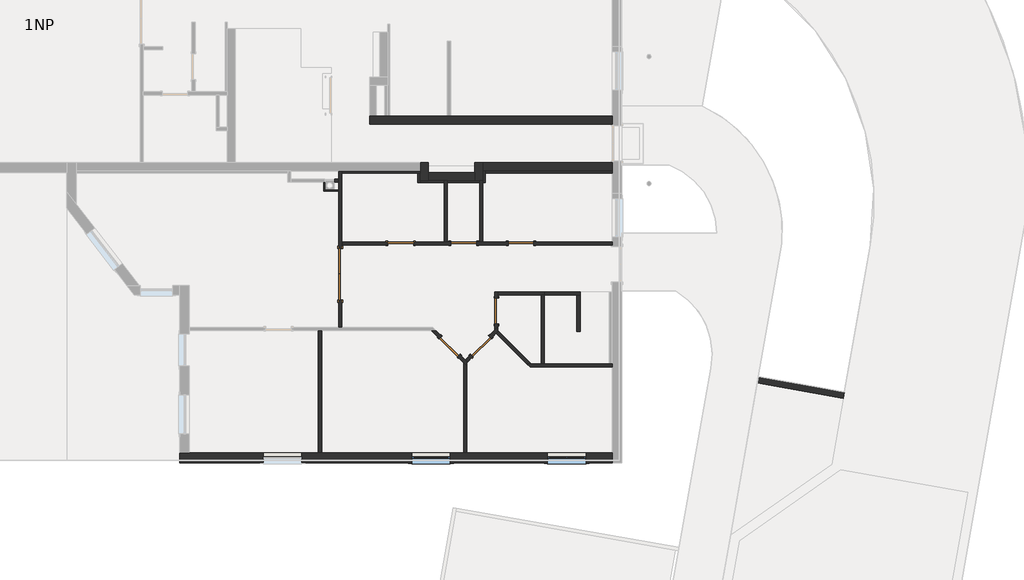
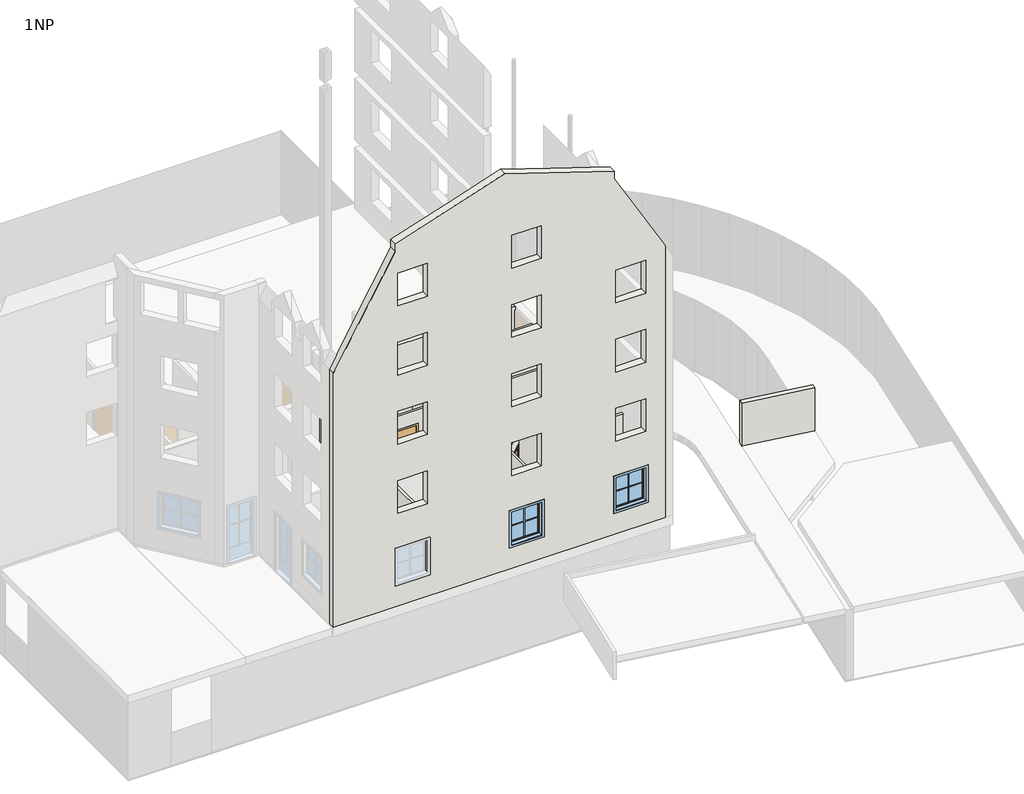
# One storey, part 2 of 7: 31 walls, 7 doors, 2 windows.
"""IFC4 building model written with IfcOpenShell, lengths in millimetres."""

import ifcopenshell
import ifcopenshell.guid

model = None  # the IFC model being written
_history = None  # IfcOwnerHistory: only IFC2X3 demands one
_inside = {}  # id of a spatial element -> (the spatial element, [elements in it])
_under = {}  # id of a project, library or spatial element -> (it, [spatial elements below it])
_declared = {}  # id of a project -> (the project, [libraries it declares])
_typed = {}  # id of a type object -> (the type object, [elements of that type])
_made_of = {}  # id of a material, layer set ... -> (it, [elements and type objects made of it])


def new_model(schema):
    """Start an empty IFC model of exactly this schema.

    Asked for "IFC4X3", IfcOpenShell would pick the latest addendum, in which some entities
    have other attributes; the version numbers below select the first issue.
    IFC2X3 requires an IfcOwnerHistory on every rooted entity: one is made here for all.
    """
    global model, _history
    if schema == "IFC4X3":
        model = ifcopenshell.file(schema_version=(4, 3, 0, 0))
    else:
        model = ifcopenshell.file(schema=schema)
    _inside.clear()
    _under.clear()
    _declared.clear()
    _typed.clear()
    _made_of.clear()
    _history = None
    if model.schema == "IFC2X3":
        org = make("IfcOrganization", Name="unknown")
        user = make(
            "IfcPersonAndOrganization",
            ThePerson=make("IfcPerson", FamilyName="unknown"),
            TheOrganization=org,
        )
        app = make(
            "IfcApplication",
            ApplicationDeveloper=org,
            Version="unknown",
            ApplicationFullName="unknown",
            ApplicationIdentifier="unknown",
        )
        _history = make(
            "IfcOwnerHistory",
            OwningUser=user,
            OwningApplication=app,
            ChangeAction="ADDED",
            CreationDate=0,
        )
    return model


def make(cls, **values):
    """One entity of the class cls with the attributes given. An attribute that is None is left unset."""
    return model.create_entity(
        cls, **{name: value for name, value in values.items() if value is not None}
    )


def rooted(cls, **values):
    """An entity with a GlobalId (a new one), such as an element, a storey or a relation."""
    return make(cls, GlobalId=ifcopenshell.guid.new(), OwnerHistory=_history, **values)


def si_unit(unit_type, name, prefix=None):
    """IfcSIUnit, for example si_unit("LENGTHUNIT", "METRE", prefix="MILLI")."""
    return make("IfcSIUnit", UnitType=unit_type, Prefix=prefix, Name=name)


def assignment(units):
    """IfcUnitAssignment: the units of a project."""
    return None if units is None else make("IfcUnitAssignment", Units=units)


def point(xyz):
    """IfcCartesianPoint."""
    return None if xyz is None else make("IfcCartesianPoint", Coordinates=xyz)


def direction(xyz):
    """IfcDirection."""
    return None if xyz is None else make("IfcDirection", DirectionRatios=xyz)


def frame(location, z_axis=None, x_axis=None):
    """IfcAxis2Placement3D, a coordinate frame: its origin and axes. An axis left out is left unset."""
    return make(
        "IfcAxis2Placement3D",
        Location=point(location),
        Axis=direction(z_axis),
        RefDirection=direction(x_axis),
    )


def origin():
    """The frame at (0, 0, 0) with its axes left unset."""
    return frame((0.0, 0.0, 0.0))


def origin_with_axes():
    """The frame at (0, 0, 0) with the z axis (0, 0, 1) and the x axis (1, 0, 0) written out."""
    return frame((0.0, 0.0, 0.0), z_axis=(0.0, 0.0, 1.0), x_axis=(1.0, 0.0, 0.0))


def place(relative_to, where):
    """IfcLocalPlacement: puts the frame where relative to a parent placement (None: the world)."""
    return make(
        "IfcLocalPlacement", PlacementRelTo=relative_to, RelativePlacement=where
    )


def context(
    kind, dimensions, precision=None, world=None, true_north=None, identifier=None
):
    """IfcGeometricRepresentationContext, for example the 3D "Model" context."""
    return make(
        "IfcGeometricRepresentationContext",
        ContextIdentifier=identifier,
        ContextType=kind,
        CoordinateSpaceDimension=dimensions,
        Precision=precision,
        WorldCoordinateSystem=world,
        TrueNorth=true_north,
    )


def project(units=None, contexts=None):
    """IfcProject with its units and contexts."""
    return rooted(
        "IfcProject",
        Name="project",
        RepresentationContexts=contexts,
        UnitsInContext=assignment(units),
    )


def spatial(cls, under=None, at=None, **own):
    """A site, building, storey or space (cls), placed at a placement, below another one or the project."""
    s = rooted(cls, ObjectPlacement=at, **own)
    if under is not None:
        _under.setdefault(under.id(), (under, []))[1].append(s)
    return s


def polyline(points):
    """IfcPolyline through the points."""
    return make("IfcPolyline", Points=[point(p) for p in points])


def outline(outer, holes=None, kind="AREA"):
    """IfcArbitraryClosedProfileDef: a profile drawn as a closed curve; with holes, ...WithVoids."""
    if holes is None:
        return make("IfcArbitraryClosedProfileDef", ProfileType=kind, OuterCurve=outer)
    return make(
        "IfcArbitraryProfileDefWithVoids",
        ProfileType=kind,
        OuterCurve=outer,
        InnerCurves=holes,
    )


def extrude(swept, where, along, depth):
    """IfcExtrudedAreaSolid: the profile swept, set in the frame where, extruded along a direction by depth."""
    return make(
        "IfcExtrudedAreaSolid",
        SweptArea=swept,
        Position=where,
        ExtrudedDirection=direction(along),
        Depth=depth,
    )


def faces_of(points, faces, orient=None, outer=None):
    """IfcFace entities. A face is a list of loops; a loop is a list of indices into points, from 0.

    orient and outer hold one flag for each loop. By default every Orientation is true, the
    first loop of a face is its IfcFaceOuterBound and the others are IfcFaceBound.
    """
    made = []
    for i, loops in enumerate(faces):
        bounds = []
        for j, loop in enumerate(loops):
            is_outer = j == 0 if outer is None else outer[i][j]
            bounds.append(
                make(
                    "IfcFaceOuterBound" if is_outer else "IfcFaceBound",
                    Bound=make("IfcPolyLoop", Polygon=[points[k] for k in loop]),
                    Orientation=True if orient is None else orient[i][j],
                )
            )
        made.append(make("IfcFace", Bounds=bounds))
    return made


def faceted_brep(points, faces, orient=None, outer=None, voids=None):
    """IfcFacetedBrep: a solid bounded by flat faces; with voids (closed shells), ...WithVoids."""
    shared = [point(p) for p in points]
    hull = make("IfcClosedShell", CfsFaces=faces_of(shared, faces, orient, outer))
    if voids is None:
        return make("IfcFacetedBrep", Outer=hull)
    return make(
        "IfcFacetedBrepWithVoids",
        Outer=hull,
        Voids=[
            make(cls, CfsFaces=faces_of(shared, fs, o, b)) for cls, fs, o, b in voids
        ],
    )


def shape(context_of_items, identifier, shape_type, items):
    """IfcShapeRepresentation: the items that make up one representation, for example the "Body"."""
    return make(
        "IfcShapeRepresentation",
        ContextOfItems=context_of_items,
        RepresentationIdentifier=identifier,
        RepresentationType=shape_type,
        Items=items,
    )


def source(mapping_origin, context_of_items, identifier, shape_type, items):
    """IfcRepresentationMap: a shape defined once, which mapped items show again and again."""
    return make(
        "IfcRepresentationMap",
        MappingOrigin=mapping_origin,
        MappedRepresentation=shape(context_of_items, identifier, shape_type, items),
    )


def transform(
    local_origin,
    x_axis=None,
    y_axis=None,
    z_axis=None,
    scale=None,
    scale2=None,
    scale3=None,
    uniform=True,
):
    """IfcCartesianTransformationOperator3D, or its non-uniform kind. x_axis, y_axis, z_axis: its Axis1, 2, 3."""
    if uniform:
        return make(
            "IfcCartesianTransformationOperator3D",
            Axis1=direction(x_axis),
            Axis2=direction(y_axis),
            LocalOrigin=point(local_origin),
            Scale=scale,
            Axis3=direction(z_axis),
        )
    return make(
        "IfcCartesianTransformationOperator3DnonUniform",
        Axis1=direction(x_axis),
        Axis2=direction(y_axis),
        LocalOrigin=point(local_origin),
        Scale=scale,
        Axis3=direction(z_axis),
        Scale2=scale2,
        Scale3=scale3,
    )


def mapped(mapping_source, mapping_target):
    """IfcMappedItem: shows the shape of a source again, moved by a transform."""
    return make(
        "IfcMappedItem", MappingSource=mapping_source, MappingTarget=mapping_target
    )


def made_of(thing, what):
    """Note that an element or type object is made of a material, layer set ...; save() writes the relation."""
    if what is not None:
        _made_of.setdefault(what.id(), (what, []))[1].append(thing)
    return thing


def element(
    cls,
    number,
    at=None,
    inside=None,
    cuts=None,
    type_object=None,
    material=None,
    context=None,
    identifier="Body",
    shape_type=None,
    held_by="IfcProductDefinitionShape",
    body=None,
    shapes=None,
    **own,
):
    """One element of the class cls, such as IfcWall. Its Tag is "e" and its number.

    at: its placement. inside: the storey or other place that contains it. cuts: it is an
    opening in that element (IfcRelVoidsElement). A single representation is given by context,
    identifier, shape_type and body (its items); several are given by shapes. held_by: the class
    of the entity that holds the representations. save() writes the other relations.
    """
    e = rooted(cls, Tag="e%d" % number, ObjectPlacement=at, **own)
    if body is not None:
        shapes = [shape(context, identifier, shape_type, body)]
    if shapes is not None:
        e.Representation = make(held_by, Representations=shapes)
    if inside is not None:
        _inside.setdefault(inside.id(), (inside, []))[1].append(e)
    if cuts is not None:
        rooted(
            "IfcRelVoidsElement", RelatingBuildingElement=cuts, RelatedOpeningElement=e
        )
    if type_object is not None:
        _typed.setdefault(type_object.id(), (type_object, []))[1].append(e)
    return made_of(e, material)


def aggregate(whole, parts):
    """IfcRelAggregates: a whole, such as a stair, and the parts it consists of."""
    return rooted("IfcRelAggregates", RelatingObject=whole, RelatedObjects=parts)


def save(model, path):
    """Write the relations noted so far, then the file.

    IfcRelAggregates (storeys below a building ...), IfcRelContainedInSpatialStructure (elements
    in a storey), IfcRelDefinesByType, IfcRelAssociatesMaterial and IfcRelDeclares: one each for
    every whole, place, type object, material and project.
    """
    for whole, parts in _under.values():
        aggregate(whole, parts)
    for where, things in _inside.values():
        rooted(
            "IfcRelContainedInSpatialStructure",
            RelatedElements=things,
            RelatingStructure=where,
        )
    for kind, things in _typed.values():
        rooted("IfcRelDefinesByType", RelatedObjects=things, RelatingType=kind)
    for what, things in _made_of.values():
        rooted("IfcRelAssociatesMaterial", RelatedObjects=things, RelatingMaterial=what)
    for by, libraries in _declared.values():
        rooted("IfcRelDeclares", RelatingContext=by, RelatedDefinitions=libraries)
    model.write(path)


def door_1600_x_2000mm_db1aa0cc(model_context):
    return source(origin(), model_context, "Body", "SweptSolid", [
        extrude(outline(polyline([(0.0, -50.0), (0.0, 1.0), (800.0, 1.0), (800.0, -50.0), (0.0, -50.0)])), origin_with_axes(), (0.0, 0.0, 1.0), 2000.0),
        extrude(outline(polyline([(-800.0, -50.0), (-800.0, 1.0), (0.0, 1.0), (0.0, -50.0), (-800.0, -50.0)])), origin_with_axes(), (0.0, 0.0, 1.0), 2000.0),
        extrude(outline(polyline([(2000.0, -800.0), (2000.0, 800.0), (0.0, 800.0), (0.0, 876.0), (2076.0, 876.0), (2076.0, -876.0), (0.0, -876.0), (0.0, -800.0), (2000.0, -800.0)])), frame((0.0, 50.0, 0.0), z_axis=(0.0, 1.0, 0.0), x_axis=(0.0, 0.0, 1.0)), (0.0, 0.0, 1.0), 25.0),
        extrude(outline(polyline([(2000.0, -800.0), (2000.0, 800.0), (0.0, 800.0), (0.0, 876.0), (2076.0, 876.0), (2076.0, -876.0), (0.0, -876.0), (0.0, -800.0), (2000.0, -800.0)])), frame((0.0, -75.0, 0.0), z_axis=(0.0, 1.0, 0.0), x_axis=(0.0, 0.0, 1.0)), (0.0, 0.0, 1.0), 25.0),
    ])


def sd_800x2000_6a16926d(model_context):
    return source(origin(), model_context, "Body", "SweptSolid", [
        extrude(outline(polyline([(2060.0, -460.0), (0.0, -460.0), (0.0, -400.0), (2000.0, -400.0), (2000.0, 400.0), (0.0, 400.0), (0.0, 460.0), (2060.0, 460.0), (2060.0, -460.0)])), frame((0.0, -70.0, 0.0), z_axis=(0.0, 1.0, 0.0), x_axis=(0.0, 0.0, 1.0)), (0.0, 0.0, 1.0), 20.0),
        extrude(outline(polyline([(2060.0, 460.0), (2060.0, -460.0), (0.0, -460.0), (0.0, -400.0), (2000.0, -400.0), (2000.0, 400.0), (0.0, 400.0), (0.0, 460.0), (2060.0, 460.0)])), frame((0.0, 50.0, 0.0), z_axis=(0.0, 1.0, 0.0), x_axis=(0.0, 0.0, 1.0)), (0.0, 0.0, 1.0), 20.0),
        extrude(outline(polyline([(400.0, 0.0), (400.0, -50.0), (-400.0, -50.0), (-400.0, 0.0), (400.0, 0.0)])), origin_with_axes(), (0.0, 0.0, 1.0), 2000.0),
    ])


def sd_800x2000_80f4ff25(model_context):
    return source(origin(), model_context, "Body", "SweptSolid", [
        extrude(outline(polyline([(2060.0, -460.0), (0.0, -460.0), (0.0, -400.0), (2000.0, -400.0), (2000.0, 400.0), (0.0, 400.0), (0.0, 460.0), (2060.0, 460.0), (2060.0, -460.0)])), frame((0.0, 50.0, 0.0), z_axis=(0.0, 1.0, 0.0), x_axis=(0.0, 0.0, 1.0)), (0.0, 0.0, 1.0), 20.0),
        extrude(outline(polyline([(2060.0, 460.0), (2060.0, -460.0), (0.0, -460.0), (0.0, -400.0), (2000.0, -400.0), (2000.0, 400.0), (0.0, 400.0), (0.0, 460.0), (2060.0, 460.0)])), frame((0.0, -70.0, 0.0), z_axis=(0.0, 1.0, 0.0), x_axis=(0.0, 0.0, 1.0)), (0.0, 0.0, 1.0), 20.0),
        extrude(outline(polyline([(400.0, 0.0), (-400.0, 0.0), (-400.0, 50.0), (400.0, 50.0), (400.0, 0.0)])), origin_with_axes(), (0.0, 0.0, 1.0), 2000.0),
    ])


def standard_window_with_mullions_80486b60(model_context):
    return source(origin(), model_context, "Body", "SweptSolid", [
        extrude(outline(polyline([(600.0, 26.9623738), (-600.0, 26.9623738), (-600.0, 180.0), (600.0, 180.0), (600.0, 26.9623738)])), frame((0.0, 0.0, 1000.0), z_axis=(0.0, 0.0, 1.0), x_axis=(1.0, 0.0, 0.0)), (0.0, 0.0, 1.0), 25.0),
        extrude(outline(polyline([(2500.0, -700.0), (900.0, -700.0), (900.0, 700.0), (2500.0, 700.0), (2500.0, -700.0)]), holes=[polyline([(2400.0, -600.0), (2400.0, 600.0), (1000.0, 600.0), (1000.0, -600.0), (2400.0, -600.0)])]), frame((0.0, 150.0, 0.0), z_axis=(0.0, 1.0, 0.0), x_axis=(0.0, 0.0, 1.0)), (0.0, 0.0, 1.0), 15.0),
        extrude(outline(polyline([(2375.0, -575.0), (1025.0, -575.0), (1025.0, 575.0), (2375.0, 575.0), (2375.0, -575.0)]), holes=[polyline([(2340.0, -540.0), (2340.0, 540.0), (1060.0, 540.0), (1060.0, -540.0), (2340.0, -540.0)])]), frame((0.0, -39.0188131, 0.0), z_axis=(0.0, 1.0, 0.0), x_axis=(0.0, 0.0, 1.0)), (0.0, 0.0, 1.0), 50.5),
        extrude(outline(polyline([(1000.0, -600.0), (1000.0, 600.0), (2400.0, 600.0), (2400.0, -600.0), (1000.0, -600.0)]), holes=[polyline([(1025.0, -575.0), (2375.0, -575.0), (2375.0, 575.0), (1025.0, 575.0), (1025.0, -575.0)])]), frame((0.0, -39.0188131, 0.0), z_axis=(0.0, 1.0, 0.0), x_axis=(0.0, 0.0, 1.0)), (0.0, 0.0, 1.0), 65.9811869),
        extrude(outline(polyline([(1715.0, 540.0), (1715.0, 15.0), (2340.0, 15.0), (2340.0, -15.0), (1715.0, -15.0), (1715.0, -540.0), (1685.0, -540.0), (1685.0, -15.0), (1060.0, -15.0), (1060.0, 15.0), (1685.0, 15.0), (1685.0, 540.0), (1715.0, 540.0)])), frame((0.0, -28.5188131, 0.0), z_axis=(0.0, 1.0, 0.0), x_axis=(0.0, 0.0, 1.0)), (0.0, 0.0, 1.0), 20.0),
        extrude(outline(polyline([(540.0, -15.5188131), (-540.0, -15.5188131), (-540.0, -13.5188131), (540.0, -13.5188131), (540.0, -15.5188131)])), frame((0.0, 0.0, 1060.0), z_axis=(0.0, 0.0, 1.0), x_axis=(1.0, 0.0, 0.0)), (0.0, 0.0, 1.0), 1280.0),
    ])


model = new_model("IFC4")

# Units and contexts
model_context = context("Model", 3, world=origin())
ifc_project = project(units=[si_unit("LENGTHUNIT", "METRE", prefix="MILLI")], contexts=[model_context])

# Site, building, storey
site = spatial("IfcSite", under=ifc_project)
building = spatial("IfcBuilding", under=site)
storey = spatial("IfcBuildingStorey", under=building, Name="1NP", Elevation=0.0)

# Doors
placement = place(None, origin())
door_1600_x_2000mm_shape = door_1600_x_2000mm_db1aa0cc(model_context)
element("IfcDoor", 1, ObjectType="DvoukridleOtevirave : 1600 x 2000mm", at=placement, inside=storey, context=model_context, shape_type="MappedRepresentation", body=[
    mapped(door_1600_x_2000mm_shape, transform((642.8037835, -5286.2589377, 0.0), x_axis=(0.0, -1.0, 0.0), y_axis=(1.0, 0.0, 0.0), z_axis=(0.0, 0.0, 1.0))),
])
sd_800x2000_shape = sd_800x2000_6a16926d(model_context)
element("IfcDoor", 2, ObjectType="JednokridlePlne : SD 800x2000", at=placement, inside=storey, context=model_context, shape_type="MappedRepresentation", body=[
    mapped(sd_800x2000_shape, transform((4029.418524, -7528.2750083, 0.0), x_axis=(0.7071067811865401, -0.707106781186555, 0.0), y_axis=(0.707106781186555, 0.7071067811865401, 0.0), z_axis=(0.0, 0.0, 1.0))),
])
element("IfcDoor", 3, ObjectType="JednokridlePlne : SD 800x2000", at=placement, inside=storey, context=model_context, shape_type="MappedRepresentation", body=[
    mapped(sd_800x2000_shape, transform((2512.8043755, -4332.3709459, 0.0), x_axis=(-1.0, 0.0, 0.0), y_axis=(0.0, -1.0, 0.0), z_axis=(0.0, 0.0, 1.0))),
])
element("IfcDoor", 4, ObjectType="JednokridlePlne : SD 800x2000", at=placement, inside=storey, context=model_context, shape_type="MappedRepresentation", body=[
    mapped(sd_800x2000_shape, transform((5476.650957, -6431.4105659, 0.0), x_axis=(0.0, -1.0, 0.0), y_axis=(1.0, 0.0, 0.0), z_axis=(0.0, 0.0, 1.0))),
])
sd_800x2000_2_shape = sd_800x2000_80f4ff25(model_context)
element("IfcDoor", 5, ObjectType="JednokridlePlne : SD 800x2000", at=placement, inside=storey, context=model_context, shape_type="MappedRepresentation", body=[
    mapped(sd_800x2000_2_shape, transform((5000.6899717, -7523.7740796, 0.0), x_axis=(-0.7071067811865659, -0.707106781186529, 0.0), y_axis=(0.707106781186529, -0.7071067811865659, 0.0), z_axis=(0.0, 0.0, 1.0))),
])
element("IfcDoor", 6, ObjectType="JednokridlePlne : SD 800x2000", at=placement, inside=storey, context=model_context, shape_type="MappedRepresentation", body=[
    mapped(sd_800x2000_2_shape, transform((6244.2182602, -4332.3709459, 0.0), x_axis=(1.0, 0.0, 0.0), y_axis=(0.0, 1.0, 0.0), z_axis=(0.0, 0.0, 1.0))),
])
element("IfcDoor", 7, ObjectType="JednokridlePlne : SD 800x2000", at=placement, inside=storey, context=model_context, shape_type="MappedRepresentation", body=[
    mapped(sd_800x2000_2_shape, transform((4469.5421305, -4332.3709459, 0.0), x_axis=(1.0, 0.0, 0.0), y_axis=(0.0, 1.0, 0.0), z_axis=(0.0, 0.0, 1.0))),
])

# Walls
element("IfcWall", 8, ObjectType="Exterior - 250+50mm", at=placement, inside=storey, context=model_context, shape_type="Brep", body=[
    faceted_brep([(9062.8037835, -10832.3709459, 0.0), (4562.8037835, -10832.3709459, 0.0), (4462.8037835, -10832.3709459, 0.0), (62.8037835, -10832.3709459, 0.0), (-37.1962165, -10832.3709459, 0.0), (-4037.1962165, -10832.3709459, 0.0), (-4337.1962165, -10832.3709459, 0.0), (-4337.1962165, -10832.3709459, 10831.9372055), (-4037.1962165, -10832.3709459, 11351.5524478), (-3598.9496412, -10832.3709459, 12110.6177824), (-3398.9496412, -10832.3709459, 12457.027944), (-1841.5846805, -10832.3709459, 15154.4631818), (-1841.5846805, -10832.3709459, 15495.936781), (412.8037835, -10832.3709459, 16228.431996), (512.8037835, -10832.3709459, 16260.9239656), (2571.9978058, -10832.3709459, 16929.9966618), (4612.8037835, -10832.3709459, 16266.8986035), (4712.8037835, -10832.3709459, 16234.4066339), (6985.5802922, -10832.3709459, 15495.936781), (6985.5802922, -10832.3709459, 15160.2921908), (8557.3155772, -10832.3709459, 12437.9668213), (8757.3155772, -10832.3709459, 12091.5566597), (9062.8037835, -10832.3709459, 11562.4355653), (9062.8037835, -10832.3709459, 8850.0), (4412.8037835, -10832.3709459, 8850.0), (4312.8037835, -10832.3709459, 8850.0), (163.5618728, -10832.3709459, 8850.0), (63.5618728, -10832.3709459, 8850.0), (-4037.1962165, -10832.3709459, 8850.0), (-4287.1962165, -10832.3709459, 8850.0), (-4287.1962165, -10832.3709459, 8530.0), (-4037.1962165, -10832.3709459, 8530.0), (1421.3824272, -10832.3709459, 8530.0), (1521.3824272, -10832.3709459, 8530.0), (4703.039213, -10832.3709459, 8530.0), (4803.039213, -10832.3709459, 8530.0), (9062.8037835, -10832.3709459, 8530.0), (9062.8037835, -10832.3709459, 5900.0), (4803.039213, -10832.3709459, 5900.0), (4703.039213, -10832.3709459, 5900.0), (1521.3824272, -10832.3709459, 5900.0), (1421.3824272, -10832.3709459, 5900.0), (-4037.1962165, -10832.3709459, 5900.0), (-4287.1962165, -10832.3709459, 5900.0), (-4287.1962165, -10832.3709459, 5580.0), (-4037.1962165, -10832.3709459, 5580.0), (1421.3824272, -10832.3709459, 5580.0), (1521.3824272, -10832.3709459, 5580.0), (4703.039213, -10832.3709459, 5580.0), (4803.039213, -10832.3709459, 5580.0), (9062.8037835, -10832.3709459, 5580.0), (9062.8037835, -10832.3709459, 2950.0), (4803.039213, -10832.3709459, 2950.0), (4703.039213, -10832.3709459, 2950.0), (1521.3824272, -10832.3709459, 2950.0), (1421.3824272, -10832.3709459, 2950.0), (-4037.1962165, -10832.3709459, 2950.0), (-4287.1962165, -10832.3709459, 2950.0), (-4287.1962165, -10832.3709459, 2630.0), (-4037.1962165, -10832.3709459, 2630.0), (-37.1962165, -10832.3709459, 2630.0), (62.8037835, -10832.3709459, 2630.0), (4462.8037835, -10832.3709459, 2630.0), (4562.8037835, -10832.3709459, 2630.0), (9062.8037835, -10832.3709459, 2630.0), (-544.1249228, -10832.3709459, 1000.0), (-544.1249228, -10832.3709459, 2400.0), (-1744.1249228, -10832.3709459, 2400.0), (-1744.1249228, -10832.3709459, 1000.0), (4053.0392115, -10832.3709459, 1000.0), (4053.0392115, -10832.3709459, 2400.0), (2853.0392115, -10832.3709459, 2400.0), (2853.0392115, -10832.3709459, 1000.0), (8257.145058, -10832.3709459, 1000.0), (8257.145058, -10832.3709459, 2400.0), (7057.145058, -10832.3709459, 2400.0), (7057.145058, -10832.3709459, 1000.0), (-544.1249228, -10832.3709459, 3950.0), (-544.1249228, -10832.3709459, 5350.0), (-1744.1249228, -10832.3709459, 5350.0), (-1744.1249228, -10832.3709459, 3950.0), (4053.0392115, -10832.3709459, 3950.0), (4053.0392115, -10832.3709459, 5350.0), (2853.0392115, -10832.3709459, 5350.0), (2853.0392115, -10832.3709459, 3950.0), (8257.145058, -10832.3709459, 3950.0), (8257.145058, -10832.3709459, 5350.0), (7057.145058, -10832.3709459, 5350.0), (7057.145058, -10832.3709459, 3950.0), (-544.1249228, -10832.3709459, 6900.0), (-544.1249228, -10832.3709459, 8300.0), (-1744.1249228, -10832.3709459, 8300.0), (-1744.1249228, -10832.3709459, 6900.0), (4053.0392115, -10832.3709459, 6900.0), (4053.0392115, -10832.3709459, 8300.0), (2853.0392115, -10832.3709459, 8300.0), (2853.0392115, -10832.3709459, 6900.0), (8257.145058, -10832.3709459, 6900.0), (8257.145058, -10832.3709459, 8300.0), (7057.145058, -10832.3709459, 8300.0), (7057.145058, -10832.3709459, 6900.0), (-544.1249228, -10832.3709459, 9850.0), (-544.1249228, -10832.3709459, 11250.0), (-1744.1249228, -10832.3709459, 11250.0), (-1744.1249228, -10832.3709459, 9850.0), (4053.0392115, -10832.3709459, 9850.0), (4053.0392115, -10832.3709459, 11250.0), (2853.0392115, -10832.3709459, 11250.0), (2853.0392115, -10832.3709459, 9850.0), (8257.145058, -10832.3709459, 9850.0), (8257.145058, -10832.3709459, 11250.0), (7057.145058, -10832.3709459, 11250.0), (7057.145058, -10832.3709459, 9850.0), (-544.1249228, -10832.3709459, 12800.0), (-544.1249228, -10832.3709459, 14200.0), (-1744.1249228, -10832.3709459, 14200.0), (-1744.1249228, -10832.3709459, 12800.0), (4053.0392115, -10832.3709459, 12800.0), (4053.0392115, -10832.3709459, 14200.0), (2853.0392115, -10832.3709459, 14200.0), (2853.0392115, -10832.3709459, 12800.0), (-4337.1962165, -11132.3709459, 0.0), (9062.8037835, -11132.3709459, 0.0), (9062.8037835, -11132.3709459, 11562.4355653), (6985.5802922, -11132.3709459, 15160.2921908), (6985.5802922, -11132.3709459, 15495.936781), (2571.9978058, -11132.3709459, 16929.9966618), (-1841.5846805, -11132.3709459, 15495.936781), (-1841.5846805, -11132.3709459, 15154.4631818), (-4337.1962165, -11132.3709459, 10831.9372055), (-544.1249228, -11132.3709459, 2400.0), (-544.1249228, -11132.3709459, 1000.0), (-1744.1249228, -11132.3709459, 1000.0), (-1744.1249228, -11132.3709459, 2400.0), (4053.0392115, -11132.3709459, 2400.0), (4053.0392115, -11132.3709459, 1000.0), (2853.0392115, -11132.3709459, 1000.0), (2853.0392115, -11132.3709459, 2400.0), (8257.145058, -11132.3709459, 2400.0), (8257.145058, -11132.3709459, 1000.0), (7057.145058, -11132.3709459, 1000.0), (7057.145058, -11132.3709459, 2400.0), (-544.1249228, -11132.3709459, 5350.0), (-544.1249228, -11132.3709459, 3950.0), (-1744.1249228, -11132.3709459, 3950.0), (-1744.1249228, -11132.3709459, 5350.0), (4053.0392115, -11132.3709459, 5350.0), (4053.0392115, -11132.3709459, 3950.0), (2853.0392115, -11132.3709459, 3950.0), (2853.0392115, -11132.3709459, 5350.0), (8257.145058, -11132.3709459, 5350.0), (8257.145058, -11132.3709459, 3950.0), (7057.145058, -11132.3709459, 3950.0), (7057.145058, -11132.3709459, 5350.0), (-544.1249228, -11132.3709459, 8300.0), (-544.1249228, -11132.3709459, 6900.0), (-1744.1249228, -11132.3709459, 6900.0), (-1744.1249228, -11132.3709459, 8300.0), (4053.0392115, -11132.3709459, 8300.0), (4053.0392115, -11132.3709459, 6900.0), (2853.0392115, -11132.3709459, 6900.0), (2853.0392115, -11132.3709459, 8300.0), (8257.145058, -11132.3709459, 8300.0), (8257.145058, -11132.3709459, 6900.0), (7057.145058, -11132.3709459, 6900.0), (7057.145058, -11132.3709459, 8300.0), (-544.1249228, -11132.3709459, 11250.0), (-544.1249228, -11132.3709459, 9850.0), (-1744.1249228, -11132.3709459, 9850.0), (-1744.1249228, -11132.3709459, 11250.0), (4053.0392115, -11132.3709459, 11250.0), (4053.0392115, -11132.3709459, 9850.0), (2853.0392115, -11132.3709459, 9850.0), (2853.0392115, -11132.3709459, 11250.0), (8257.145058, -11132.3709459, 11250.0), (8257.145058, -11132.3709459, 9850.0), (7057.145058, -11132.3709459, 9850.0), (7057.145058, -11132.3709459, 11250.0), (-544.1249228, -11132.3709459, 14200.0), (-544.1249228, -11132.3709459, 12800.0), (-1744.1249228, -11132.3709459, 12800.0), (-1744.1249228, -11132.3709459, 14200.0), (4053.0392115, -11132.3709459, 14200.0), (4053.0392115, -11132.3709459, 12800.0), (2853.0392115, -11132.3709459, 12800.0), (2853.0392115, -11132.3709459, 14200.0), (9062.8037835, -11082.3709459, 2630.0), (9062.8037835, -11082.3709459, 2950.0), (9062.8037835, -11082.3709459, 5580.0), (9062.8037835, -11082.3709459, 5900.0), (9062.8037835, -11082.3709459, 8530.0), (9062.8037835, -11082.3709459, 8850.0), (-4287.1962165, -11082.3709459, 2630.0), (-4287.1962165, -11082.3709459, 2950.0), (-4287.1962165, -11082.3709459, 5580.0), (-4287.1962165, -11082.3709459, 5900.0), (-4287.1962165, -11082.3709459, 8530.0), (-4287.1962165, -11082.3709459, 8850.0)], [[[0, 1, 2, 3, 4, 5, 6, 7, 8, 9, 10, 11, 12, 13, 14, 15, 16, 17, 18, 19, 20, 21, 22, 23, 24, 25, 26, 27, 28, 29, 30, 31, 32, 33, 34, 35, 36, 37, 38, 39, 40, 41, 42, 43, 44, 45, 46, 47, 48, 49, 50, 51, 52, 53, 54, 55, 56, 57, 58, 59, 60, 61, 62, 63, 64], [65, 66, 67, 68], [69, 70, 71, 72], [73, 74, 75, 76], [77, 78, 79, 80], [81, 82, 83, 84], [85, 86, 87, 88], [89, 90, 91, 92], [93, 94, 95, 96], [97, 98, 99, 100], [101, 102, 103, 104], [105, 106, 107, 108], [109, 110, 111, 112], [113, 114, 115, 116], [117, 118, 119, 120]], [[121, 122, 123, 124, 125, 126, 127, 128, 129], [130, 131, 132, 133], [134, 135, 136, 137], [138, 139, 140, 141], [142, 143, 144, 145], [146, 147, 148, 149], [150, 151, 152, 153], [154, 155, 156, 157], [158, 159, 160, 161], [162, 163, 164, 165], [166, 167, 168, 169], [170, 171, 172, 173], [174, 175, 176, 177], [178, 179, 180, 181], [182, 183, 184, 185]], [[6, 5, 4, 3, 2, 1, 0, 122, 121]], [[7, 6, 121, 129]], [[123, 122, 0, 64, 186, 187, 51, 50, 188, 189, 37, 36, 190, 191, 23, 22]], [[19, 18, 125, 124]], [[128, 127, 12, 11]], [[22, 21, 20, 19, 124, 123]], [[11, 10, 9, 8, 7, 129, 128]], [[125, 18, 17, 16, 15, 126]], [[12, 127, 126, 15, 14, 13]], [[66, 65, 131, 130]], [[67, 66, 130, 133]], [[68, 67, 133, 132]], [[65, 68, 132, 131]], [[70, 69, 135, 134]], [[71, 70, 134, 137]], [[72, 71, 137, 136]], [[69, 72, 136, 135]], [[74, 73, 139, 138]], [[75, 74, 138, 141]], [[76, 75, 141, 140]], [[73, 76, 140, 139]], [[78, 77, 143, 142]], [[79, 78, 142, 145]], [[80, 79, 145, 144]], [[77, 80, 144, 143]], [[82, 81, 147, 146]], [[83, 82, 146, 149]], [[84, 83, 149, 148]], [[81, 84, 148, 147]], [[86, 85, 151, 150]], [[87, 86, 150, 153]], [[88, 87, 153, 152]], [[85, 88, 152, 151]], [[90, 89, 155, 154]], [[91, 90, 154, 157]], [[92, 91, 157, 156]], [[89, 92, 156, 155]], [[94, 93, 159, 158]], [[95, 94, 158, 161]], [[96, 95, 161, 160]], [[93, 96, 160, 159]], [[98, 97, 163, 162]], [[99, 98, 162, 165]], [[100, 99, 165, 164]], [[97, 100, 164, 163]], [[102, 101, 167, 166]], [[103, 102, 166, 169]], [[104, 103, 169, 168]], [[101, 104, 168, 167]], [[106, 105, 171, 170]], [[107, 106, 170, 173]], [[108, 107, 173, 172]], [[105, 108, 172, 171]], [[110, 109, 175, 174]], [[111, 110, 174, 177]], [[112, 111, 177, 176]], [[109, 112, 176, 175]], [[114, 113, 179, 178]], [[115, 114, 178, 181]], [[116, 115, 181, 180]], [[113, 116, 180, 179]], [[118, 117, 183, 182]], [[119, 118, 182, 185]], [[120, 119, 185, 184]], [[117, 120, 184, 183]], [[58, 192, 186, 64, 63, 62, 61, 60, 59]], [[187, 193, 57, 56, 55, 54, 53, 52, 51]], [[192, 193, 187, 186]], [[193, 192, 58, 57]], [[44, 194, 188, 50, 49, 48, 47, 46, 45]], [[189, 195, 43, 42, 41, 40, 39, 38, 37]], [[194, 195, 189, 188]], [[195, 194, 44, 43]], [[30, 196, 190, 36, 35, 34, 33, 32, 31]], [[191, 197, 29, 28, 27, 26, 25, 24, 23]], [[196, 197, 191, 190]], [[197, 196, 30, 29]]]),
])
element("IfcWall", 9, ObjectType="Interior - 100mm", at=placement, inside=storey, context=model_context, shape_type="Brep", body=[
    faceted_brep([(592.8037835, -6086.2589377, 2000.0), (592.8037835, -6086.2589377, 0.0), (592.8037835, -6932.3709459, 0.0), (592.8037835, -6932.3709459, 2630.0), (592.8037835, -2432.3709459, 2630.0), (592.8037835, -2332.3709459, 2630.0), (592.8037835, -2082.3709459, 2630.0), (592.8037835, -2082.3709459, 0.0), (592.8037835, -2332.3709459, 0.0), (592.8037835, -2432.3709459, 0.0), (592.8037835, -2682.3709459, 0.0), (592.8037835, -2712.3709459, 0.0), (592.8037835, -4486.2589377, 0.0), (592.8037835, -4486.2589377, 2000.0), (692.8037835, -6932.3709459, 0.0), (692.8037835, -6086.2589377, 0.0), (692.8037835, -6086.2589377, 2000.0), (692.8037835, -4486.2589377, 2000.0), (692.8037835, -4486.2589377, 0.0), (692.8037835, -2147.3709459, 0.0), (692.8037835, -2082.3709459, 0.0), (692.8037835, -2082.3709459, 2630.0), (692.8037835, -2147.3709459, 2630.0), (692.8037835, -6932.3709459, 2630.0)], [[[0, 1, 2, 3, 4, 5, 6, 7, 8, 9, 10, 11, 12, 13]], [[14, 15, 16, 17, 18, 19, 20, 21, 22, 23]], [[2, 1, 15, 14]], [[12, 11, 10, 9, 8, 7, 20, 19, 18]], [[7, 6, 21, 20]], [[3, 2, 14, 23]], [[6, 5, 4, 3, 23, 22, 21]], [[16, 15, 1, 0]], [[17, 16, 0, 13]], [[18, 17, 13, 12]]]),
])
element("IfcWall", 10, ObjectType="Interior - 100mm", at=placement, inside=storey, context=model_context, shape_type="Brep", body=[
    faceted_brep([(4276.9058974, -7846.4730598, 2000.0), (4276.9058974, -7846.4730598, 0.0), (4462.8037835, -8032.3709459, 0.0), (4562.8037835, -8132.3709459, 0.0), (4562.8037835, -8132.3709459, 2630.0), (4462.8037835, -8032.3709459, 2630.0), (3462.8037835, -7032.3709459, 2630.0), (3462.8037835, -7032.3709459, 0.0), (3711.2204724, -7280.7876349, 0.0), (3711.2204724, -7280.7876349, 2000.0), (4562.8037835, -7990.9495897, 0.0), (4512.8037835, -7940.9495897, 0.0), (4347.6165755, -7775.7623817, 0.0), (4347.6165755, -7775.7623817, 2000.0), (3781.9311505, -7210.0769568, 2000.0), (3781.9311505, -7210.0769568, 0.0), (3604.2251397, -7032.3709459, 0.0), (3604.2251397, -7032.3709459, 2630.0), (4512.8037835, -7940.9495897, 2630.0), (4562.8037835, -7990.9495897, 2630.0), (4562.8037835, -8032.3709459, 0.0), (4562.8037835, -8032.3709459, 2630.0)], [[[0, 1, 2, 3, 4, 5, 6, 7, 8, 9]], [[10, 11, 12, 13, 14, 15, 16, 17, 18, 19]], [[3, 2, 1, 12, 11, 10, 20]], [[8, 7, 16, 15]], [[4, 3, 20, 10, 19, 21]], [[7, 6, 17, 16]], [[6, 5, 4, 21, 19, 18, 17]], [[13, 12, 1, 0]], [[14, 13, 0, 9]], [[15, 14, 9, 8]]]),
])
element("IfcWall", 11, ObjectType="Interior - 100mm", at=placement, inside=storey, context=model_context, shape_type="SweptSolid", body=[
    extrude(outline(polyline([(4462.8037835, -10832.3709459), (4462.8037835, -8032.3709459), (4562.8037835, -8132.3709459), (4562.8037835, -10832.3709459), (4462.8037835, -10832.3709459)])), origin_with_axes(), (0.0, 0.0, 1.0), 2630.0),
])
element("IfcWall", 12, ObjectType="Interior - 100mm", at=placement, inside=storey, context=model_context, shape_type="Brep", body=[
    faceted_brep([(4562.8037835, -8032.3709459, 0.0), (4753.2025983, -7841.9721311, 0.0), (4753.2025983, -7841.9721311, 2000.0), (5318.8880232, -7276.2867062, 2000.0), (5318.8880232, -7276.2867062, 0.0), (5476.650957, -7118.5237723, 0.0), (5526.650957, -7068.5237723, 0.0), (5526.650957, -7068.5237723, 2630.0), (5476.650957, -7118.5237723, 2630.0), (4562.8037835, -8032.3709459, 2630.0), (4682.4919202, -7771.261453, 2000.0), (4682.4919202, -7771.261453, 0.0), (4512.8037835, -7940.9495897, 0.0), (4512.8037835, -7940.9495897, 2630.0), (5426.650957, -7027.1024161, 2630.0), (5526.650957, -6927.1024161, 2630.0), (5526.650957, -6927.1024161, 0.0), (5426.650957, -7027.1024161, 0.0), (5248.1773451, -7205.576028, 0.0), (5248.1773451, -7205.576028, 2000.0), (4562.8037835, -7990.9495897, 0.0), (5526.650957, -7027.1024161, 0.0), (5526.650957, -7027.1024161, 2630.0), (4562.8037835, -7990.9495897, 2630.0)], [[[0, 1, 2, 3, 4, 5, 6, 7, 8, 9]], [[10, 11, 12, 13, 14, 15, 16, 17, 18, 19]], [[12, 11, 1, 0, 20]], [[18, 17, 16, 21, 6, 5, 4]], [[7, 6, 21, 16, 15, 22]], [[0, 9, 23, 20]], [[23, 13, 12, 20]], [[9, 8, 7, 22, 15, 14, 13, 23]], [[2, 1, 11, 10]], [[3, 2, 10, 19]], [[4, 3, 19, 18]]]),
])
element("IfcWall", 13, ObjectType="Interior - 100mm", at=placement, inside=storey, context=model_context, shape_type="Brep", body=[
    faceted_brep([(5526.650957, -6927.1024161, 0.0), (5526.650957, -6831.4105659, 0.0), (5526.650957, -6831.4105659, 2000.0), (5526.650957, -6031.4105659, 2000.0), (5526.650957, -6031.4105659, 0.0), (5526.650957, -5932.3709459, 0.0), (5526.650957, -5832.3709459, 0.0), (5526.650957, -5832.3709459, 2630.0), (5526.650957, -5932.3709459, 2630.0), (5526.650957, -6927.1024161, 2630.0), (5426.650957, -6831.4105659, 2000.0), (5426.650957, -6831.4105659, 0.0), (5426.650957, -7027.1024161, 0.0), (5426.650957, -7027.1024161, 2630.0), (5426.650957, -5832.3709459, 2630.0), (5426.650957, -5832.3709459, 0.0), (5426.650957, -6031.4105659, 0.0), (5426.650957, -6031.4105659, 2000.0)], [[[0, 1, 2, 3, 4, 5, 6, 7, 8, 9]], [[10, 11, 12, 13, 14, 15, 16, 17]], [[12, 11, 1, 0]], [[16, 15, 6, 5, 4]], [[7, 6, 15, 14]], [[0, 9, 13, 12]], [[9, 8, 7, 14, 13]], [[2, 1, 11, 10]], [[3, 2, 10, 17]], [[4, 3, 17, 16]]]),
])
element("IfcWall", 14, ObjectType="Interior - 100mm", at=placement, inside=storey, context=model_context, shape_type="Brep", body=[
    faceted_brep([(5526.650957, -5932.3709459, 0.0), (6862.8037835, -5932.3709459, 0.0), (6962.8037835, -5932.3709459, 0.0), (6962.8037835, -5932.3709459, 2630.0), (6862.8037835, -5932.3709459, 2630.0), (5526.650957, -5932.3709459, 2630.0), (5526.650957, -5832.3709459, 0.0), (5526.650957, -5832.3709459, 2630.0), (6962.8037835, -5832.3709459, 2630.0), (6962.8037835, -5832.3709459, 0.0)], [[[0, 1, 2, 3, 4, 5]], [[6, 7, 8, 9]], [[2, 1, 0, 6, 9]], [[3, 2, 9, 8]], [[0, 5, 7, 6]], [[5, 4, 3, 8, 7]]]),
])
element("IfcWall", 15, ObjectType="Interior - 100mm", at=placement, inside=storey, context=model_context, shape_type="SweptSolid", body=[
    extrude(outline(polyline([(6862.8037835, -8062.3709459), (6862.8037835, -5932.3709459), (6962.8037835, -5932.3709459), (6962.8037835, -8062.3709459), (6862.8037835, -8062.3709459)])), origin_with_axes(), (0.0, 0.0, 1.0), 2630.0),
])
element("IfcWall", 16, ObjectType="Interior - 100mm", at=placement, inside=storey, context=model_context, shape_type="Brep", body=[
    faceted_brep([(6520.4981306, -8162.3709459, 0.0), (9062.8037835, -8162.3709459, 0.0), (9062.8037835, -8162.3709459, 2630.0), (6520.4981306, -8162.3709459, 2630.0), (6420.4981306, -8062.3709459, 0.0), (6420.4981306, -8062.3709459, 2630.0), (6561.9194868, -8062.3709459, 2630.0), (6862.8037835, -8062.3709459, 2630.0), (6962.8037835, -8062.3709459, 2630.0), (9062.8037835, -8062.3709459, 2630.0), (9062.8037835, -8062.3709459, 0.0), (8982.8088399, -8062.3709459, 0.0), (6962.8037835, -8062.3709459, 0.0), (6862.8037835, -8062.3709459, 0.0), (6561.9194868, -8062.3709459, 0.0)], [[[0, 1, 2, 3]], [[4, 5, 6, 7, 8, 9, 10, 11, 12, 13, 14]], [[1, 0, 4, 14, 13, 12, 11, 10]], [[0, 3, 5, 4]], [[2, 1, 10, 9]], [[3, 2, 9, 8, 7, 6, 5]]]),
])
element("IfcWall", 17, ObjectType="Interior - 100mm", at=placement, inside=storey, context=model_context, shape_type="SweptSolid", body=[
    extrude(outline(polyline([(5526.650957, -7027.1024161), (6561.9194868, -8062.3709459), (6420.4981306, -8062.3709459), (5476.650957, -7118.5237723), (5526.650957, -7068.5237723), (5526.650957, -7027.1024161)])), origin_with_axes(), (0.0, 0.0, 1.0), 2630.0),
])
element("IfcWall", 18, ObjectType="Interior - 100mm", at=placement, inside=storey, context=model_context, shape_type="Brep", body=[
    faceted_brep([(5844.2182602, -4282.3709459, 0.0), (5062.8037835, -4282.3709459, 0.0), (4962.8037835, -4282.3709459, 0.0), (4869.5421305, -4282.3709459, 0.0), (4869.5421305, -4282.3709459, 2000.0), (4069.5421305, -4282.3709459, 2000.0), (4069.5421305, -4282.3709459, 0.0), (3962.8037835, -4282.3709459, 0.0), (3862.8037835, -4282.3709459, 0.0), (2912.8043755, -4282.3709459, 0.0), (2912.8043755, -4282.3709459, 2000.0), (2112.8043755, -4282.3709459, 2000.0), (2112.8043755, -4282.3709459, 0.0), (712.8037835, -4282.3709459, 0.0), (712.8037835, -4282.3709459, 2630.0), (3862.8037835, -4282.3709459, 2630.0), (3962.8037835, -4282.3709459, 2630.0), (4962.8037835, -4282.3709459, 2630.0), (5062.8037835, -4282.3709459, 2630.0), (9062.8037835, -4282.3709459, 2630.0), (9062.8037835, -4282.3709459, 0.0), (6644.2182602, -4282.3709459, 0.0), (6644.2182602, -4282.3709459, 2000.0), (5844.2182602, -4282.3709459, 2000.0), (4869.5421305, -4382.3709459, 2000.0), (4869.5421305, -4382.3709459, 0.0), (5844.2182602, -4382.3709459, 0.0), (5844.2182602, -4382.3709459, 2000.0), (6644.2182602, -4382.3709459, 2000.0), (6644.2182602, -4382.3709459, 0.0), (9062.8037835, -4382.3709459, 0.0), (9062.8037835, -4382.3709459, 2630.0), (712.8037835, -4382.3709459, 2630.0), (712.8037835, -4382.3709459, 0.0), (2112.8043755, -4382.3709459, 0.0), (2112.8043755, -4382.3709459, 2000.0), (2912.8043755, -4382.3709459, 2000.0), (2912.8043755, -4382.3709459, 0.0), (4069.5421305, -4382.3709459, 0.0), (4069.5421305, -4382.3709459, 2000.0)], [[[0, 1, 2, 3, 4, 5, 6, 7, 8, 9, 10, 11, 12, 13, 14, 15, 16, 17, 18, 19, 20, 21, 22, 23]], [[24, 25, 26, 27, 28, 29, 30, 31, 32, 33, 34, 35, 36, 37, 38, 39]], [[30, 29, 21, 20]], [[13, 12, 34, 33]], [[26, 25, 3, 2, 1, 0]], [[38, 37, 9, 8, 7, 6]], [[14, 13, 33, 32]], [[20, 19, 31, 30]], [[19, 18, 17, 16, 15, 14, 32, 31]], [[22, 21, 29, 28]], [[23, 22, 28, 27]], [[0, 23, 27, 26]], [[35, 34, 12, 11]], [[36, 35, 11, 10]], [[37, 36, 10, 9]], [[4, 3, 25, 24]], [[5, 4, 24, 39]], [[6, 5, 39, 38]]]),
])
element("IfcWall", 19, ObjectType="Interior - 100mm", at=placement, inside=storey, context=model_context, shape_type="Brep", body=[
    faceted_brep([(3862.8037835, -2382.3709459, 0.0), (3862.8037835, -2447.3709459, 0.0), (3862.8037835, -4282.3709459, 0.0), (3862.8037835, -4282.3709459, 2630.0), (3862.8037835, -2447.3709459, 2630.0), (3862.8037835, -2382.3709459, 2630.0), (3962.8037835, -2382.3709459, 0.0), (3962.8037835, -2382.3709459, 2630.0), (3962.8037835, -2447.3709459, 2630.0), (3962.8037835, -4282.3709459, 2630.0), (3962.8037835, -4282.3709459, 0.0), (3962.8037835, -2447.3709459, 0.0)], [[[0, 1, 2, 3, 4, 5]], [[6, 7, 8, 9, 10, 11]], [[2, 1, 0, 6, 11, 10]], [[0, 5, 7, 6]], [[3, 2, 10, 9]], [[5, 4, 3, 9, 8, 7]]]),
])
element("IfcWall", 20, ObjectType="Interior - 100mm", at=placement, inside=storey, context=model_context, shape_type="Brep", body=[
    faceted_brep([(4962.8037835, -2382.3709459, 0.0), (4962.8037835, -2447.3709459, 0.0), (4962.8037835, -4282.3709459, 0.0), (4962.8037835, -4282.3709459, 2630.0), (4962.8037835, -2447.3709459, 2630.0), (4962.8037835, -2382.3709459, 2630.0), (5062.8037835, -2382.3709459, 0.0), (5062.8037835, -2382.3709459, 2630.0), (5062.8037835, -4282.3709459, 2630.0), (5062.8037835, -4282.3709459, 0.0)], [[[0, 1, 2, 3, 4, 5]], [[6, 7, 8, 9]], [[2, 1, 0, 6, 9]], [[3, 2, 9, 8]], [[0, 5, 7, 6]], [[5, 4, 3, 8, 7]]]),
])
element("IfcWall", 21, ObjectType="Interior - 100mm", at=placement, inside=storey, context=model_context, shape_type="SweptSolid", body=[
    extrude(outline(polyline([(-37.1962165, -10832.3709459), (-37.1962165, -7032.3709459), (62.8037835, -7032.3709459), (62.8037835, -10832.3709459), (-37.1962165, -10832.3709459)])), origin_with_axes(), (0.0, 0.0, 1.0), 2630.0),
])
element("IfcWall", 22, ObjectType="Interior - 100mm", at=placement, inside=storey, context=model_context, shape_type="SweptSolid", body=[
    extrude(outline(polyline([(592.8037835, -2432.3709459), (478.5618728, -2432.3709459), (478.5618728, -2332.3709459), (592.8037835, -2332.3709459), (592.8037835, -2432.3709459)])), origin_with_axes(), (0.0, 0.0, 1.0), 2630.0),
])
element("IfcWall", 23, ObjectType="Interior - 100mm", at=placement, inside=storey, context=model_context, shape_type="Brep", body=[
    faceted_brep([(6962.8037835, -5932.3709459, 0.0), (7976.4088399, -5932.3709459, 0.0), (8076.4088399, -5932.3709459, 0.0), (8076.4088399, -5932.3709459, 2950.0), (7976.4088399, -5932.3709459, 2950.0), (6962.8037835, -5932.3709459, 2950.0), (6962.8037835, -5932.3709459, 2630.0), (6962.8037835, -5832.3709459, 0.0), (6962.8037835, -5832.3709459, 2630.0), (6962.8037835, -5832.3709459, 2950.0), (8076.4088399, -5832.3709459, 2950.0), (8076.4088399, -5832.3709459, 0.0)], [[[0, 1, 2, 3, 4, 5, 6]], [[7, 8, 9, 10, 11]], [[2, 1, 0, 7, 11]], [[5, 4, 3, 10, 9]], [[3, 2, 11, 10]], [[0, 6, 5, 9, 8, 7]]]),
])
element("IfcWall", 24, ObjectType="Interior - 100mm", at=placement, inside=storey, context=model_context, shape_type="SweptSolid", body=[
    extrude(outline(polyline([(7976.4088399, -7062.3709459), (7976.4088399, -5932.3709459), (8076.4088399, -5932.3709459), (8076.4088399, -7062.3709459), (7976.4088399, -7062.3709459)])), origin_with_axes(), (0.0, 0.0, 1.0), 2950.0),
])
element("IfcWall", 25, ObjectType="Interior - 250mm", at=placement, inside=storey, context=model_context, shape_type="Brep", body=[
    faceted_brep([(9062.8037835, -382.3709459, 0.0), (4062.8037835, -382.3709459, 0.0), (3962.8037835, -382.3709459, 0.0), (2177.8037835, -382.3709459, 0.0), (2112.8037835, -382.3709459, 0.0), (2012.8037835, -382.3709459, 0.0), (1762.8088399, -382.3709459, 0.0), (1562.8088399, -382.3709459, 0.0), (1562.8088399, -382.3709459, 2630.0), (1762.8087381, -382.3709459, 2630.0), (2012.8037835, -382.3709459, 2630.0), (2112.8037835, -382.3709459, 2630.0), (2177.8037835, -382.3709459, 2630.0), (3962.8037835, -382.3709459, 2630.0), (4062.8037835, -382.3709459, 2630.0), (8062.8037835, -382.3709459, 2630.0), (9062.8037835, -382.3709459, 2630.0), (9062.8037835, -632.3709459, 0.0), (9062.8037835, -632.3709459, 2630.0), (8062.8037835, -632.3709459, 2630.0), (3712.8037835, -632.3709459, 2630.0), (3412.8037835, -632.3709459, 2630.0), (1562.8088399, -632.3709459, 2630.0), (1562.8088399, -632.3709459, 0.0)], [[[0, 1, 2, 3, 4, 5, 6, 7, 8, 9, 10, 11, 12, 13, 14, 15, 16]], [[17, 18, 19, 20, 21, 22, 23]], [[7, 6, 5, 4, 3, 2, 1, 0, 17, 23]], [[8, 7, 23, 22]], [[0, 16, 18, 17]], [[16, 15, 19, 18]], [[15, 14, 13, 12, 11, 10, 9, 8, 22, 21, 20, 19]]]),
])
element("IfcWall", 26, ObjectType="Interior - 250mm", at=placement, inside=storey, context=model_context, shape_type="Brep", body=[
    faceted_brep([(3112.8037835, -1832.3709459, 0.0), (3112.8037835, -2082.3709459, 0.0), (3112.8037835, -2382.3709459, 0.0), (3112.8037835, -2382.3709459, 2630.0), (3112.8037835, -2082.3709459, 2630.0), (3112.8037835, -1832.3709459, 2630.0), (3362.8037835, -1832.3709459, 0.0), (3362.8037835, -1832.3709459, 2630.0), (3362.8037835, -2132.3709459, 2630.0), (3362.8037835, -2382.3709459, 2630.0), (3362.8037835, -2382.3709459, 0.0), (3362.8037835, -2132.3709459, 0.0)], [[[0, 1, 2, 3, 4, 5]], [[6, 7, 8, 9, 10, 11]], [[2, 1, 0, 6, 11, 10]], [[0, 5, 7, 6]], [[3, 2, 10, 9]], [[5, 4, 3, 9, 8, 7]]]),
])
element("IfcWall", 27, ObjectType="Interior - 250mm", at=placement, inside=storey, context=model_context, shape_type="Brep", body=[
    faceted_brep([(3362.8037835, -2382.3709459, 0.0), (3862.8037835, -2382.3709459, 0.0), (3962.8037835, -2382.3709459, 0.0), (4812.8037835, -2382.3709459, 0.0), (4812.8037835, -2382.3709459, 2630.0), (3962.8037835, -2382.3709459, 2630.0), (3862.8037835, -2382.3709459, 2630.0), (3362.8037835, -2382.3709459, 2630.0), (3362.8037835, -2132.3709459, 0.0), (3362.8037835, -2132.3709459, 2630.0), (4812.8037835, -2132.3709459, 2630.0), (4812.8037835, -2132.3709459, 0.0)], [[[0, 1, 2, 3, 4, 5, 6, 7]], [[8, 9, 10, 11]], [[3, 2, 1, 0, 8, 11]], [[0, 7, 9, 8]], [[4, 3, 11, 10]], [[7, 6, 5, 4, 10, 9]]]),
])
element("IfcWall", 28, ObjectType="Interior - 250mm", at=placement, inside=storey, context=model_context, shape_type="Brep", body=[
    faceted_brep([(5062.8037835, -2382.3709459, 0.0), (5062.8037835, -2082.3709459, 0.0), (5062.8037835, -1832.3709459, 0.0), (5062.8037835, -1832.3709459, 2630.0), (5062.8037835, -2082.3709459, 2630.0), (5062.8037835, -2382.3709459, 2630.0), (4812.8037835, -2382.3709459, 0.0), (4812.8037835, -2382.3709459, 2630.0), (4812.8037835, -2132.3709459, 2630.0), (4812.8037835, -1832.3709459, 2630.0), (4812.8037835, -1832.3709459, 0.0), (4812.8037835, -2132.3709459, 0.0)], [[[0, 1, 2, 3, 4, 5]], [[6, 7, 8, 9, 10, 11]], [[2, 1, 0, 6, 11, 10]], [[0, 5, 7, 6]], [[3, 2, 10, 9]], [[5, 4, 3, 9, 8, 7]]]),
])
element("IfcWall", 29, ObjectType="Interior - 250mm", at=placement, inside=storey, context=model_context, shape_type="SweptSolid", body=[
    extrude(outline(polyline([(0.0, 5062.8037835), (0.0, 9062.8037835), (2630.0, 9062.8037835), (2630.0, 8062.8037835), (2630.0, 5062.8037835), (0.0, 5062.8037835)])), frame((0.0, -2082.3709459, 0.0), z_axis=(0.0, 1.0, 0.0), x_axis=(0.0, 0.0, 1.0)), (0.0, 0.0, 1.0), 250.0),
])
element("IfcWall", 30, ObjectType="Interior - 300mm", at=placement, inside=storey, context=model_context, shape_type="Brep", body=[
    faceted_brep([(133.5618728, -2432.3709459, 0.0), (133.5618728, -2712.3709459, 0.0), (133.5618728, -2712.3709459, 2950.0), (133.5618728, -2432.3709459, 2950.0), (163.5618728, -2432.3709459, 0.0), (163.5618728, -2432.3709459, 2630.0), (163.5618728, -2432.3709459, 2950.0), (163.5618728, -2682.3709459, 2950.0), (163.5618728, -2712.3709459, 2950.0), (163.5618728, -2712.3709459, 0.0), (163.5618728, -2682.3709459, 0.0)], [[[0, 1, 2, 3]], [[4, 5, 6, 7, 8, 9, 10]], [[1, 0, 4, 10, 9]], [[3, 2, 8, 7, 6]], [[2, 1, 9, 8]], [[0, 3, 6, 5, 4]]]),
])
element("IfcWall", 31, ObjectType="Interior - 300mm", at=placement, inside=storey, context=model_context, shape_type="Brep", body=[
    faceted_brep([(163.5618728, -2712.3709459, 0.0), (592.8037835, -2712.3709459, 0.0), (592.8037835, -2712.3709459, 2950.0), (163.5618728, -2712.3709459, 2950.0), (163.5618728, -2682.3709459, 0.0), (163.5618728, -2682.3709459, 2950.0), (592.8037835, -2682.3709459, 2950.0), (592.8037835, -2682.3709459, 0.0), (463.5618728, -2682.3709459, 0.0)], [[[0, 1, 2, 3]], [[4, 5, 6, 7, 8]], [[1, 0, 4, 8, 7]], [[3, 2, 6, 5]], [[0, 3, 5, 4]], [[2, 1, 7, 6]]]),
])
element("IfcWall", 32, ObjectType="Interior - 65mm", at=placement, inside=storey, context=model_context, shape_type="Brep", body=[
    faceted_brep([(692.8037835, -2147.3709459, 0.0), (3047.8037835, -2147.3709459, 0.0), (3112.8037835, -2147.3709459, 0.0), (3112.8037835, -2147.3709459, 2630.0), (3047.8037835, -2147.3709459, 2630.0), (692.8037835, -2147.3709459, 2630.0), (692.8037835, -2082.3709459, 0.0), (692.8037835, -2082.3709459, 2630.0), (3112.8037835, -2082.3709459, 2630.0), (3112.8037835, -2082.3709459, 0.0)], [[[0, 1, 2, 3, 4, 5]], [[6, 7, 8, 9]], [[2, 1, 0, 6, 9]], [[3, 2, 9, 8]], [[0, 5, 7, 6]], [[5, 4, 3, 8, 7]]]),
])
element("IfcWall", 33, ObjectType="Interior - 65mm", at=placement, inside=storey, context=model_context, shape_type="Brep", body=[
    faceted_brep([(3047.8037835, -2147.3709459, 0.0), (3047.8037835, -2447.3709459, 0.0), (3047.8037835, -2447.3709459, 2630.0), (3047.8037835, -2147.3709459, 2630.0), (3112.8037835, -2147.3709459, 0.0), (3112.8037835, -2147.3709459, 2630.0), (3112.8037835, -2382.3709459, 2630.0), (3112.8037835, -2447.3709459, 2630.0), (3112.8037835, -2447.3709459, 0.0), (3112.8037835, -2382.3709459, 0.0)], [[[0, 1, 2, 3]], [[4, 5, 6, 7, 8, 9]], [[1, 0, 4, 9, 8]], [[2, 1, 8, 7]], [[0, 3, 5, 4]], [[3, 2, 7, 6, 5]]]),
])
element("IfcWall", 34, ObjectType="Interior - 65mm", at=placement, inside=storey, context=model_context, shape_type="SweptSolid", body=[
    extrude(outline(polyline([(3862.8037835, -2447.3709459), (3112.8037835, -2447.3709459), (3112.8037835, -2382.3709459), (3862.8037835, -2382.3709459), (3862.8037835, -2447.3709459)])), origin_with_axes(), (0.0, 0.0, 1.0), 2630.0),
])
element("IfcWall", 35, ObjectType="Interior - 65mm", at=placement, inside=storey, context=model_context, shape_type="SweptSolid", body=[
    extrude(outline(polyline([(4962.8037835, -2447.3709459), (3962.8037835, -2447.3709459), (3962.8037835, -2382.3709459), (4962.8037835, -2382.3709459), (4962.8037835, -2447.3709459)])), origin_with_axes(), (0.0, 0.0, 1.0), 2630.0),
])
element("IfcWall", 36, ObjectType="Interior - 65mm", at=placement, inside=storey, context=model_context, shape_type="Brep", body=[
    faceted_brep([(5127.8037835, -2447.3709459, 0.0), (5127.8037835, -2147.3709459, 0.0), (5127.8037835, -2082.3709459, 0.0), (5127.8037835, -2082.3709459, 2630.0), (5127.8037835, -2147.3709459, 2630.0), (5127.8037835, -2447.3709459, 2630.0), (5062.8037835, -2447.3709459, 0.0), (5062.8037835, -2447.3709459, 2630.0), (5062.8037835, -2082.3709459, 2630.0), (5062.8037835, -2082.3709459, 0.0)], [[[0, 1, 2, 3, 4, 5]], [[6, 7, 8, 9]], [[2, 1, 0, 6, 9]], [[0, 5, 7, 6]], [[3, 2, 9, 8]], [[5, 4, 3, 8, 7]]]),
])
element("IfcWall", 37, ObjectType="Interior - 65mm", at=placement, inside=storey, context=model_context, shape_type="SweptSolid", body=[
    extrude(outline(polyline([(0.0, 5127.8037835), (0.0, 9062.8037835), (2630.0, 9062.8037835), (2630.0, 8062.8037835), (2630.0, 5127.8037835), (0.0, 5127.8037835)])), frame((0.0, -2147.3709459, 0.0), z_axis=(0.0, 1.0, 0.0), x_axis=(0.0, 0.0, 1.0)), (0.0, 0.0, 1.0), 65.0),
])
element("IfcWall", 38, ObjectType="Interior - CMU 200mm", at=placement, inside=storey, context=model_context, shape_type="Brep", body=[
    faceted_brep([(16262.7280726, -8934.2449693, 1800.0), (16262.7280726, -8934.2449693, 1000.0), (16262.7280726, -8934.2449693, -1000.0), (13590.5523257, -8463.068288, -1000.0), (13590.5523257, -8463.068288, 1800.0), (16227.9984371, -9131.2065199, -1000.0), (16227.9984371, -9131.2065199, 1800.0), (13555.8226902, -8660.0298386, 1800.0), (13555.8226902, -8660.0298386, -1000.0)], [[[0, 1, 2, 3, 4]], [[5, 6, 7, 8]], [[3, 2, 5, 8]], [[4, 3, 8, 7]], [[0, 6, 5, 2, 1]], [[0, 4, 7, 6]]]),
])

# Windows
standard_window_with_mullions_shape = standard_window_with_mullions_80486b60(model_context)
element("IfcWindow", 39, ObjectType="Standard Window with mullions : 1200/1400", at=placement, inside=storey, context=model_context, shape_type="MappedRepresentation", body=[
    mapped(standard_window_with_mullions_shape, transform((3453.0392115, -10982.3709459, 0.0), x_axis=(-1.0, 0.0, 0.0), y_axis=(0.0, -1.0, 0.0), z_axis=(0.0, 0.0, 1.0))),
])
element("IfcWindow", 40, ObjectType="Standard Window with mullions : 1200/1400", at=placement, inside=storey, context=model_context, shape_type="MappedRepresentation", body=[
    mapped(standard_window_with_mullions_shape, transform((7657.145058, -10982.3709459, 0.0), x_axis=(-1.0, 0.0, 0.0), y_axis=(0.0, -1.0, 0.0), z_axis=(0.0, 0.0, 1.0))),
])

save(model, "model.ifc")
